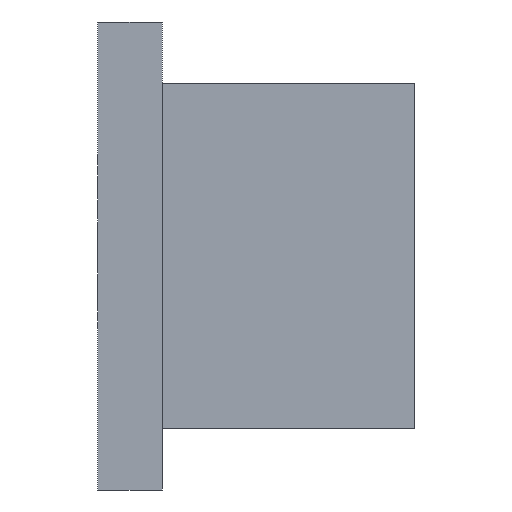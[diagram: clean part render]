
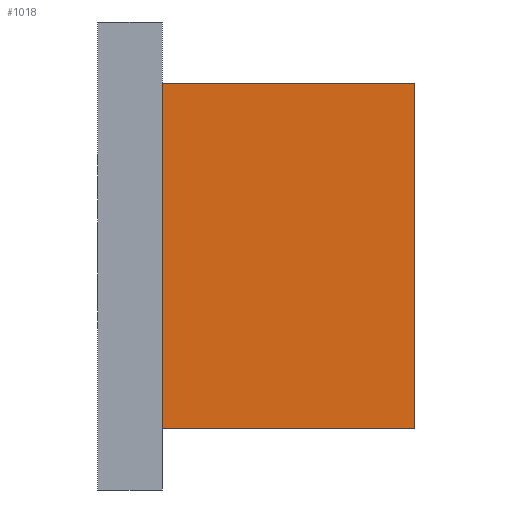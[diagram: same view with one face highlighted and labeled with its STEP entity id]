
A CAD part, left-side view. The second image highlights one B-rep face of the part: STEP entity #1018.
In plain terms, the highlighted planar face has unit normal (-1, 0, 0).
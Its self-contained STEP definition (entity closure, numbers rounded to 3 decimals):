
#62 = PLANE('',#63);
#63 = AXIS2_PLACEMENT_3D('',#64,#65,#66);
#64 = CARTESIAN_POINT('',(68.5,176.,9.5));
#65 = DIRECTION('',(-0.,1.,0.));
#66 = DIRECTION('',(0.,0.,1.));
#347 = VERTEX_POINT('',#348);
#348 = CARTESIAN_POINT('',(70.2,176.,20.8));
#362 = PLANE('',#363);
#363 = AXIS2_PLACEMENT_3D('',#364,#365,#366);
#364 = CARTESIAN_POINT('',(70.2,169.,20.8));
#365 = DIRECTION('',(0.,0.,1.));
#366 = DIRECTION('',(1.,0.,-0.));
#374 = EDGE_CURVE('',#375,#347,#377,.T.);
#375 = VERTEX_POINT('',#376);
#376 = CARTESIAN_POINT('',(70.2,176.,11.2));
#377 = SURFACE_CURVE('',#378,(#382,#389),.PCURVE_S1.);
#378 = LINE('',#379,#380);
#379 = CARTESIAN_POINT('',(70.2,176.,11.2));
#380 = VECTOR('',#381,1.);
#381 = DIRECTION('',(0.,0.,1.));
#382 = PCURVE('',#62,#383);
#383 = DEFINITIONAL_REPRESENTATION('',(#384),#388);
#384 = LINE('',#385,#386);
#385 = CARTESIAN_POINT('',(1.7,1.7));
#386 = VECTOR('',#387,1.);
#387 = DIRECTION('',(1.,0.));
#388 = ( GEOMETRIC_REPRESENTATION_CONTEXT(2) 
PARAMETRIC_REPRESENTATION_CONTEXT() REPRESENTATION_CONTEXT('2D SPACE',''
  ) );
#389 = PCURVE('',#390,#395);
#390 = PLANE('',#391);
#391 = AXIS2_PLACEMENT_3D('',#392,#393,#394);
#392 = CARTESIAN_POINT('',(70.2,169.,11.2));
#393 = DIRECTION('',(1.,0.,-0.));
#394 = DIRECTION('',(0.,0.,1.));
#395 = DEFINITIONAL_REPRESENTATION('',(#396),#400);
#396 = LINE('',#397,#398);
#397 = CARTESIAN_POINT('',(0.,-7.));
#398 = VECTOR('',#399,1.);
#399 = DIRECTION('',(1.,0.));
#400 = ( GEOMETRIC_REPRESENTATION_CONTEXT(2) 
PARAMETRIC_REPRESENTATION_CONTEXT() REPRESENTATION_CONTEXT('2D SPACE',''
  ) );
#418 = PLANE('',#419);
#419 = AXIS2_PLACEMENT_3D('',#420,#421,#422);
#420 = CARTESIAN_POINT('',(70.2,169.,11.2));
#421 = DIRECTION('',(0.,0.,1.));
#422 = DIRECTION('',(1.,0.,-0.));
#836 = PLANE('',#837);
#837 = AXIS2_PLACEMENT_3D('',#838,#839,#840);
#838 = CARTESIAN_POINT('',(70.2,169.,11.2));
#839 = DIRECTION('',(-0.,1.,0.));
#840 = DIRECTION('',(0.,0.,1.));
#973 = EDGE_CURVE('',#974,#347,#976,.T.);
#974 = VERTEX_POINT('',#975);
#975 = CARTESIAN_POINT('',(70.2,169.,20.8));
#976 = SURFACE_CURVE('',#977,(#981,#988),.PCURVE_S1.);
#977 = LINE('',#978,#979);
#978 = CARTESIAN_POINT('',(70.2,169.,20.8));
#979 = VECTOR('',#980,1.);
#980 = DIRECTION('',(-0.,1.,0.));
#981 = PCURVE('',#362,#982);
#982 = DEFINITIONAL_REPRESENTATION('',(#983),#987);
#983 = LINE('',#984,#985);
#984 = CARTESIAN_POINT('',(0.,0.));
#985 = VECTOR('',#986,1.);
#986 = DIRECTION('',(0.,1.));
#987 = ( GEOMETRIC_REPRESENTATION_CONTEXT(2) 
PARAMETRIC_REPRESENTATION_CONTEXT() REPRESENTATION_CONTEXT('2D SPACE',''
  ) );
#988 = PCURVE('',#390,#989);
#989 = DEFINITIONAL_REPRESENTATION('',(#990),#994);
#990 = LINE('',#991,#992);
#991 = CARTESIAN_POINT('',(9.6,0.));
#992 = VECTOR('',#993,1.);
#993 = DIRECTION('',(0.,-1.));
#994 = ( GEOMETRIC_REPRESENTATION_CONTEXT(2) 
PARAMETRIC_REPRESENTATION_CONTEXT() REPRESENTATION_CONTEXT('2D SPACE',''
  ) );
#1018 = ADVANCED_FACE('',(#1019),#390,.F.);
#1019 = FACE_BOUND('',#1020,.F.);
#1020 = EDGE_LOOP('',(#1021,#1044,#1065,#1066));
#1021 = ORIENTED_EDGE('',*,*,#1022,.F.);
#1022 = EDGE_CURVE('',#1023,#974,#1025,.T.);
#1023 = VERTEX_POINT('',#1024);
#1024 = CARTESIAN_POINT('',(70.2,169.,11.2));
#1025 = SURFACE_CURVE('',#1026,(#1030,#1037),.PCURVE_S1.);
#1026 = LINE('',#1027,#1028);
#1027 = CARTESIAN_POINT('',(70.2,169.,11.2));
#1028 = VECTOR('',#1029,1.);
#1029 = DIRECTION('',(0.,0.,1.));
#1030 = PCURVE('',#390,#1031);
#1031 = DEFINITIONAL_REPRESENTATION('',(#1032),#1036);
#1032 = LINE('',#1033,#1034);
#1033 = CARTESIAN_POINT('',(0.,0.));
#1034 = VECTOR('',#1035,1.);
#1035 = DIRECTION('',(1.,0.));
#1036 = ( GEOMETRIC_REPRESENTATION_CONTEXT(2) 
PARAMETRIC_REPRESENTATION_CONTEXT() REPRESENTATION_CONTEXT('2D SPACE',''
  ) );
#1037 = PCURVE('',#836,#1038);
#1038 = DEFINITIONAL_REPRESENTATION('',(#1039),#1043);
#1039 = LINE('',#1040,#1041);
#1040 = CARTESIAN_POINT('',(0.,0.));
#1041 = VECTOR('',#1042,1.);
#1042 = DIRECTION('',(1.,0.));
#1043 = ( GEOMETRIC_REPRESENTATION_CONTEXT(2) 
PARAMETRIC_REPRESENTATION_CONTEXT() REPRESENTATION_CONTEXT('2D SPACE',''
  ) );
#1044 = ORIENTED_EDGE('',*,*,#1045,.T.);
#1045 = EDGE_CURVE('',#1023,#375,#1046,.T.);
#1046 = SURFACE_CURVE('',#1047,(#1051,#1058),.PCURVE_S1.);
#1047 = LINE('',#1048,#1049);
#1048 = CARTESIAN_POINT('',(70.2,169.,11.2));
#1049 = VECTOR('',#1050,1.);
#1050 = DIRECTION('',(-0.,1.,0.));
#1051 = PCURVE('',#390,#1052);
#1052 = DEFINITIONAL_REPRESENTATION('',(#1053),#1057);
#1053 = LINE('',#1054,#1055);
#1054 = CARTESIAN_POINT('',(0.,0.));
#1055 = VECTOR('',#1056,1.);
#1056 = DIRECTION('',(0.,-1.));
#1057 = ( GEOMETRIC_REPRESENTATION_CONTEXT(2) 
PARAMETRIC_REPRESENTATION_CONTEXT() REPRESENTATION_CONTEXT('2D SPACE',''
  ) );
#1058 = PCURVE('',#418,#1059);
#1059 = DEFINITIONAL_REPRESENTATION('',(#1060),#1064);
#1060 = LINE('',#1061,#1062);
#1061 = CARTESIAN_POINT('',(0.,0.));
#1062 = VECTOR('',#1063,1.);
#1063 = DIRECTION('',(0.,1.));
#1064 = ( GEOMETRIC_REPRESENTATION_CONTEXT(2) 
PARAMETRIC_REPRESENTATION_CONTEXT() REPRESENTATION_CONTEXT('2D SPACE',''
  ) );
#1065 = ORIENTED_EDGE('',*,*,#374,.T.);
#1066 = ORIENTED_EDGE('',*,*,#973,.F.);
